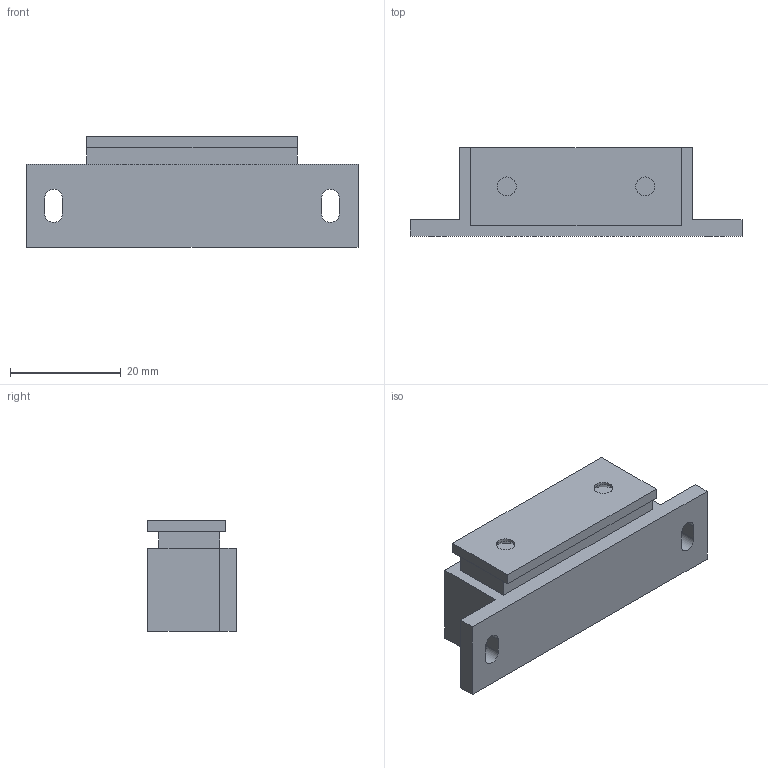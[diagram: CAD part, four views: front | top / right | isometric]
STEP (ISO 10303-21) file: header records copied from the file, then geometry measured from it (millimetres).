
FILE_DESCRIPTION((''),'2;1');
FILE_NAME('C:\Documents and Settings\古川典政\My Documents\Inventor\HP用\MasterData\ACCESSORY\M4\DMC-6018.stp','2008-08-05T11:46:29',(''),(''),'Autodesk Inventor 2008','Autodesk Inventor 2008','');
FILE_SCHEMA(('CONFIG_CONTROL_DESIGN'));
Length unit declared in the file: millimetre
Products named in the file (3): DMC-6018; DMC-60181; DMC-60182
Assembly tree (2 placements, depth 2):
  DMC-6018
    DMC-60181
    DMC-60182
Bounding box: 60 x 16 x 20 mm (x, y, z)
Volume: 13038.6 mm3; surface area: 5317.4 mm2
Topology: 2 solids, 2 shells, 33 faces, 84 edges, 56 vertices
Faces by surface type: plane 23, bspline 6, cylinder 3, cone 1
Full cylindrical faces by diameter (mm): 3.4 x1
Entity records: 1094 total; most frequent: CARTESIAN_POINT 244, DIRECTION 156, ORIENTED_EDGE 156, EDGE_CURVE 78, VECTOR 64, LINE 64, VERTEX_POINT 54, AXIS2_PLACEMENT_3D 46
